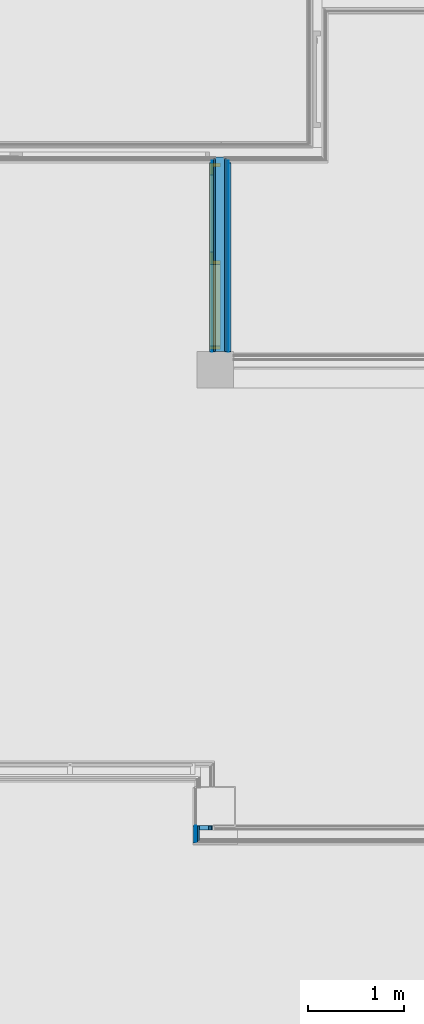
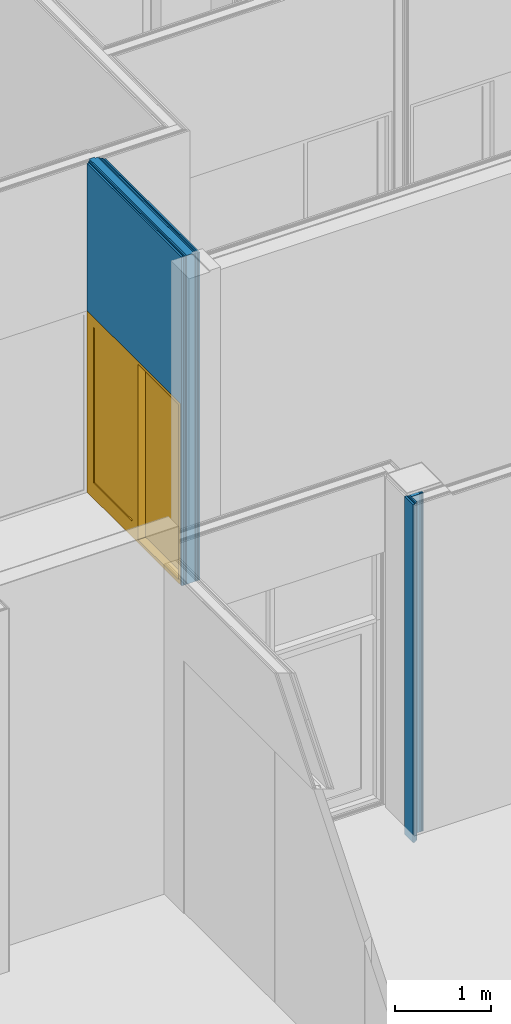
# One storey, part 212 of 260: 17 building element parts, 1 door, 1 opening, 2 elements without a shape of their own.
"""IFC2X3 building model written with IfcOpenShell, lengths in millimetres."""

from ifc_helpers import new_model, entity, si_unit, converted_unit, derived_unit, money_unit, direction, frame, origin_with_axes, place, context, subcontext, project, spatial, open_shell, faceted_brep, surface_model, material, type_object, element, fill, aggregate, save


model = new_model("IFC2X3")

# Units and contexts
model_context = context("Model", 3, precision=0.01, world=origin_with_axes(), true_north=direction((0.0, 1.0)))
body_context = subcontext(model_context, "Body", "Model", "MODEL_VIEW")
ifc_project = project(units=[si_unit("LENGTHUNIT", "METRE", prefix="MILLI"), si_unit("AREAUNIT", "SQUARE_METRE"), si_unit("VOLUMEUNIT", "CUBIC_METRE"), converted_unit("PLANEANGLEUNIT", "DEGREE", entity("IfcPlaneAngleMeasure", 0.0174532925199), si_unit("PLANEANGLEUNIT", "RADIAN"), dimensions=[0, 0, 0, 0, 0, 0, 0]), money_unit("EUR"), converted_unit("TIMEUNIT", "Year", entity("IfcTimeMeasure", 31556926.0), si_unit("TIMEUNIT", "SECOND"), dimensions=[0, 0, 1, 0, 0, 0, 0]), si_unit("MASSUNIT", "GRAM", prefix="KILO"), si_unit("THERMODYNAMICTEMPERATUREUNIT", "DEGREE_CELSIUS"), si_unit("LUMINOUSINTENSITYUNIT", "LUMEN"), si_unit("ENERGYUNIT", "JOULE", prefix="MEGA"), derived_unit("THERMALCONDUCTANCEUNIT", [(si_unit("POWERUNIT", "WATT"), 1), (si_unit("LENGTHUNIT", "METRE"), -1), (si_unit("THERMODYNAMICTEMPERATUREUNIT", "KELVIN"), -1)]), derived_unit("SPECIFICHEATCAPACITYUNIT", [(si_unit("ENERGYUNIT", "JOULE"), 1), (si_unit("MASSUNIT", "GRAM", prefix="KILO"), -1), (si_unit("THERMODYNAMICTEMPERATUREUNIT", "KELVIN"), -1)]), derived_unit("MASSDENSITYUNIT", [(si_unit("MASSUNIT", "GRAM", prefix="KILO"), 1), (si_unit("VOLUMEUNIT", "CUBIC_METRE"), -1)])], contexts=[model_context])

# Site, building, storey
site_placement = place(None, origin_with_axes())
site = spatial("IfcSite", under=ifc_project, at=site_placement, Name="Kolde pst 67a", CompositionType="ELEMENT")
building_placement = place(site_placement, origin_with_axes())
building = spatial("IfcBuilding", under=site, at=building_placement, Name="Riigigümnaasium", CompositionType="ELEMENT")
storey_placement = place(building_placement, origin_with_axes())
storey = spatial("IfcBuildingStorey", under=building, at=storey_placement, Name="1. korrus", CompositionType="ELEMENT", Elevation=0.0)

# Door
door_style = type_object("IfcDoorStyle", Name="Door with Sidelight on Side 2 25", ConstructionType="NOTDEFINED", OperationType="SINGLE_SWING_RIGHT", ParameterTakesPrecedence=False, Sizeable=False)
wall_1_placement = place(storey_placement, frame((76590.0020631, 30929.9996719, 0.0), z_axis=(0.0, 0.0, 1.0), x_axis=(0.0, -1.0, 0.0)))
opening_placement = place(wall_1_placement, frame((970.0, 0.0, 0.0), z_axis=(0.0, 0.0, 1.0), x_axis=(1.0, 0.0, 0.0)))
door_placement = place(opening_placement, frame((970.0, 0.0, 0.0), z_axis=(0.0, 0.0, 1.0), x_axis=(-1.0, 0.0, 0.0)))
door = element("IfcDoor", 1, at=door_placement, inside=storey, type_object=door_style, Name="Siseuks", ObjectType="DOOR", OverallHeight=2300.0, OverallWidth=1940.0, context=body_context, shape_type="SurfaceModel", body=[
    faceted_brep([(0.0, 60.0, 0.0), (40.0, 60.0, 0.0), (40.0, -55.0, 0.0), (0.0, -55.0, 0.0), (0.0, 60.0, 2260.0), (40.0, 60.0, 2260.0), (40.0, 60.0, 40.0), (40.0, -55.0, 40.0), (40.0, -55.0, 2260.0), (0.0, -55.0, 2260.0)], [[[0, 1, 2, 3]], [[0, 4, 5, 6, 1]], [[1, 6, 7, 2]], [[3, 2, 7, 8, 9]], [[4, 0, 3, 9]], [[5, 4, 9, 8]], [[6, 5, 8, 7]]]),
    faceted_brep([(924.0, 20.0, 0.0), (924.0, 20.0, 2260.0), (924.0, -55.0, 2260.0), (924.0, -55.0, 0.0), (912.0, 20.0, 2260.0), (912.0, 20.0, 0.0), (912.0, 60.0, 2260.0), (884.0, 60.0, 2260.0), (884.0, -55.0, 2260.0), (884.0, -55.0, 0.0), (884.0, -55.0, 40.0), (884.0, 60.0, 0.0), (912.0, 60.0, 0.0), (884.0, 60.0, 40.0)], [[[0, 1, 2, 3]], [[4, 1, 0, 5]], [[4, 6, 7, 8, 2, 1]], [[9, 3, 2, 8, 10]], [[5, 0, 3, 9, 11, 12]], [[6, 4, 5, 12]], [[6, 12, 11, 13, 7]], [[13, 10, 8, 7]], [[11, 9, 10, 13]]]),
    faceted_brep([(40.0, 60.0, 40.0), (40.0, 60.0, 0.0), (40.0, -55.0, 0.0), (40.0, -55.0, 40.0), (884.0, 60.0, 40.0), (884.0, 60.0, 0.0), (884.0, -55.0, 0.0), (884.0, -55.0, 40.0)], [[[0, 1, 2, 3]], [[0, 4, 5, 1]], [[1, 5, 6, 2]], [[3, 2, 6, 7]], [[4, 0, 3, 7]], [[5, 4, 7, 6]]]),
    faceted_brep([(1912.0, 20.0, 2260.0), (1900.0, 20.0, 2260.0), (1900.0, -55.0, 2260.0), (1940.0, -55.0, 2260.0), (1940.0, 60.0, 2260.0), (1912.0, 60.0, 2260.0), (1912.0, 20.0, 0.0), (1900.0, 20.0, 0.0), (1900.0, -55.0, 0.0), (1940.0, -55.0, 0.0), (1940.0, 60.0, 0.0), (1912.0, 60.0, 0.0)], [[[0, 1, 2, 3, 4, 5]], [[1, 0, 6, 7]], [[1, 7, 8, 2]], [[3, 2, 8, 9]], [[4, 3, 9, 10]], [[11, 5, 4, 10]], [[0, 5, 11, 6]], [[6, 11, 10, 9, 8, 7]]]),
    faceted_brep([(912.0, 60.0, 2272.0), (912.0, 60.0, 2260.0), (884.0, 60.0, 2260.0), (40.0, 60.0, 2260.0), (0.0, 60.0, 2260.0), (0.0, 60.0, 2300.0), (1940.0, 60.0, 2300.0), (1940.0, 60.0, 2260.0), (1912.0, 60.0, 2260.0), (1912.0, 60.0, 2272.0), (912.0, 20.0, 2272.0), (912.0, 20.0, 2260.0), (1900.0, 20.0, 2260.0), (1900.0, -55.0, 2260.0), (924.0, -55.0, 2260.0), (884.0, -55.0, 2260.0), (40.0, -55.0, 2260.0), (0.0, -55.0, 2260.0), (0.0, -55.0, 2300.0), (1940.0, -55.0, 2300.0), (1940.0, -55.0, 2260.0), (1912.0, 20.0, 2260.0), (1912.0, 20.0, 2272.0)], [[[0, 1, 2, 3, 4, 5, 6, 7, 8, 9]], [[1, 0, 10, 11]], [[11, 12, 13, 14, 15, 2, 1]], [[2, 15, 16, 3]], [[3, 16, 17, 4]], [[4, 17, 18, 5]], [[5, 18, 19, 6]], [[6, 19, 20, 7]], [[21, 8, 7, 20, 13, 12]], [[9, 8, 21, 22]], [[0, 9, 22, 10]], [[21, 12, 11, 10, 22]], [[13, 20, 19, 18, 17, 16, 15, 14]]]),
    faceted_brep([(1912.0, 60.0, 200.0), (1912.0, 20.0, 200.0), (1812.0, 20.0, 200.0), (1812.0, 60.0, 200.0), (1912.0, 60.0, 2172.0), (1912.0, 20.0, 2172.0), (1812.0, 20.0, 2172.0), (1812.0, 60.0, 2172.0)], [[[0, 1, 2, 3]], [[4, 5, 1, 0]], [[1, 5, 6, 2]], [[3, 2, 6, 7]], [[0, 3, 7, 4]], [[7, 6, 5, 4]]]),
    faceted_brep([(912.0, 60.0, 200.0), (912.0, 20.0, 200.0), (912.0, 20.0, 2172.0), (912.0, 60.0, 2172.0), (1012.0, 60.0, 200.0), (1012.0, 20.0, 200.0), (1012.0, 20.0, 2172.0), (1012.0, 60.0, 2172.0)], [[[0, 1, 2, 3]], [[4, 5, 1, 0]], [[1, 5, 6, 2]], [[3, 2, 6, 7]], [[0, 3, 7, 4]], [[7, 6, 5, 4]]]),
    faceted_brep([(1912.0, 60.0, 0.0), (1912.0, 20.0, 0.0), (912.0, 20.0, 0.0), (912.0, 60.0, 0.0), (1912.0, 60.0, 200.0), (1912.0, 20.0, 200.0), (1812.0, 20.0, 200.0), (1012.0, 20.0, 200.0), (912.0, 20.0, 200.0), (912.0, 60.0, 200.0), (1012.0, 60.0, 200.0), (1812.0, 60.0, 200.0)], [[[0, 1, 2, 3]], [[4, 5, 1, 0]], [[1, 5, 6, 7, 8, 2]], [[3, 2, 8, 9]], [[0, 3, 9, 10, 11, 4]], [[11, 6, 5, 4]], [[10, 7, 6, 11]], [[9, 8, 7, 10]]]),
    faceted_brep([(1912.0, 60.0, 2272.0), (1912.0, 20.0, 2272.0), (1912.0, 20.0, 2172.0), (1912.0, 60.0, 2172.0), (912.0, 60.0, 2272.0), (912.0, 20.0, 2272.0), (912.0, 20.0, 2172.0), (1012.0, 20.0, 2172.0), (1812.0, 20.0, 2172.0), (1812.0, 60.0, 2172.0), (1012.0, 60.0, 2172.0), (912.0, 60.0, 2172.0)], [[[0, 1, 2, 3]], [[4, 5, 1, 0]], [[1, 5, 6, 7, 8, 2]], [[3, 2, 8, 9]], [[0, 3, 9, 10, 11, 4]], [[11, 6, 5, 4]], [[10, 7, 6, 11]], [[9, 8, 7, 10]]]),
    surface_model("IfcShellBasedSurfaceModel", [(1812.0, 46.0, 200.0), (1012.0, 46.0, 200.0), (1012.0, 46.0, 2172.0), (1812.0, 46.0, 2172.0)], [open_shell([[[0, 1, 2, 3]]])]),
    surface_model("IfcShellBasedSurfaceModel", [(1812.0, 34.0, 200.0), (1812.0, 34.0, 2172.0), (1012.0, 34.0, 2172.0), (1012.0, 34.0, 200.0)], [open_shell([[[0, 1, 2, 3]]])]),
    surface_model("IfcShellBasedSurfaceModel", [(40.0, -31.0, 40.0), (40.0, -31.0, 2260.0), (884.0, -31.0, 2260.0), (884.0, -31.0, 40.0)], [open_shell([[[0, 1, 2, 3]]])]),
    surface_model("IfcShellBasedSurfaceModel", [(40.0, -43.0, 40.0), (884.0, -43.0, 40.0), (884.0, -43.0, 2260.0), (40.0, -43.0, 2260.0)], [open_shell([[[0, 1, 2, 3]]])]),
])

# Wall, opening
wall_type = type_object("IfcWallType", Name="SS-PK-10/1_vill100+2dold 220", PredefinedType="NOTDEFINED")
wall_1 = element("IfcWall", 2, at=wall_1_placement, inside=storey, type_object=wall_type, Name="Sisesein")
opening = element("IfcOpeningElement", 3, at=opening_placement, cuts=wall_1, Name="Siseuks", context=body_context, shape_type="Brep", body=[
    faceted_brep([(-970.0, 220.0, 2300.0), (-970.0, 220.0, 0.0), (-970.0, -440.0, 0.0), (-970.0, -440.0, 2300.0), (970.0, 220.0, 2300.0), (970.0, 220.0, 0.0), (970.0, -440.0, 0.0), (970.0, -440.0, 2300.0)], [[[0, 1, 2, 3]], [[0, 4, 5, 1]], [[1, 5, 6, 2]], [[3, 2, 6, 7]], [[4, 0, 3, 7]], [[5, 4, 7, 6]]]),
])

fill(opening, door)

# Building element part
ifc_material_1 = material(Name="_VIIMISTLUSKIHT - Dold plaat vastavalt SA osale")
building_element_part_1_placement = place(wall_1_placement, origin_with_axes())
building_element_part_1 = element("IfcBuildingElementPart", 4, at=building_element_part_1_placement, material=ifc_material_1, Name="_VIIMISTLUSKIHT - Dold plaat vastavalt SA osale", context=body_context, shape_type="Brep", body=[
    faceted_brep([(1940.0, 160.0, 0.0), (1940.0, 160.0, 2300.0), (0.0, 160.0, 2300.0), (0.0, 160.0, 4156.9), (1960.000361, 160.0, 4156.9), (1960.000361, 160.0, 0.0), (1940.0, 140.0, 0.0), (1940.0, 140.0, 2300.0), (0.0, 140.0, 2300.0), (0.0, 140.0, 4156.9), (1960.000361, 140.0, 4156.9), (1960.000361, 140.0, 0.0)], [[[0, 1, 2, 3, 4, 5]], [[1, 0, 6, 7]], [[8, 2, 1, 7]], [[2, 8, 9, 3]], [[3, 9, 10, 4]], [[10, 11, 5, 4]], [[6, 0, 5, 11]], [[7, 6, 11, 10, 9, 8]]]),
])

ifc_material_2 = material(Name="_KARKASS - eriprofiilkinnitus vastavalt sisemisele plaatviimistlusele")
building_element_part_2_placement = place(wall_1_placement, origin_with_axes())
building_element_part_2 = element("IfcBuildingElementPart", 5, at=building_element_part_2_placement, material=ifc_material_2, Name="_KARKASS - eriprofiilkinnitus vastavalt sisemisele plaatviimistlusele", context=body_context, shape_type="Brep", body=[
    faceted_brep([(1940.0, 140.0, 0.0), (1940.0, 140.0, 2300.0), (0.0, 140.0, 2300.0), (0.0, 140.0, 0.0), (-20.0, 140.0, 0.0), (-20.0, 140.0, 4156.9), (1960.000361, 140.0, 4156.9), (1960.000361, 140.0, 0.0), (1940.0, 130.0, 0.0), (1940.0, 130.0, 2300.0), (0.0, 130.0, 2300.0), (0.0, 130.0, 0.0), (-20.0, 130.0, 0.0), (-20.0, 130.0, 4156.9), (1960.000361, 130.0, 4156.9), (1960.000361, 130.0, 0.0)], [[[0, 1, 2, 3, 4, 5, 6, 7]], [[1, 0, 8, 9]], [[2, 1, 9, 10]], [[3, 2, 10, 11]], [[3, 11, 12, 4]], [[5, 4, 12, 13]], [[5, 13, 14, 6]], [[14, 15, 7, 6]], [[8, 0, 7, 15]], [[9, 8, 15, 14, 13, 12, 11, 10]]]),
])

ifc_material_3 = material(Name="_PLAATMATERJAL - tuletõkkekipsplaat, Knauf Red GKF või samaväärne")
building_element_part_3_placement = place(wall_1_placement, origin_with_axes())
building_element_part_3 = element("IfcBuildingElementPart", 6, at=building_element_part_3_placement, material=ifc_material_3, Name="_PLAATMATERJAL - tuletõkkekipsplaat, Knauf Red GKF või samaväärne", context=body_context, shape_type="Brep", body=[
    faceted_brep([(1940.0, 130.0, 0.0), (1940.0, 130.0, 2300.0), (0.0, 130.0, 2300.0), (0.0, 130.0, 0.0), (-30.0, 130.0, 0.0), (-30.0, 130.0, 4156.9), (1960.000361, 130.0, 4156.9), (1960.000361, 130.0, 0.0), (1940.0, 115.0, 0.0), (1940.0, 115.0, 2300.0), (0.0, 115.0, 2300.0), (0.0, 115.0, 0.0), (-30.0, 115.0, 0.0), (-30.0, 115.0, 4156.9), (1960.000361, 115.0, 4156.9), (1960.000361, 115.0, 0.0)], [[[0, 1, 2, 3, 4, 5, 6, 7]], [[1, 0, 8, 9]], [[2, 1, 9, 10]], [[3, 2, 10, 11]], [[3, 11, 12, 4]], [[5, 4, 12, 13]], [[5, 13, 14, 6]], [[14, 15, 7, 6]], [[8, 0, 7, 15]], [[9, 8, 15, 14, 13, 12, 11, 10]]]),
])

building_element_part_4_placement = place(wall_1_placement, origin_with_axes())
building_element_part_4 = element("IfcBuildingElementPart", 7, at=building_element_part_4_placement, material=ifc_material_3, Name="_PLAATMATERJAL - tuletõkkekipsplaat, Knauf Red GKF või samaväärne", context=body_context, shape_type="Brep", body=[
    faceted_brep([(1940.0, 115.0, 0.0), (1940.0, 115.0, 2300.0), (0.0, 115.0, 2300.0), (0.0, 115.0, 0.0), (-45.0, 115.0, 0.0), (-45.0, 115.0, 4156.9), (1960.000361, 115.0, 4156.9), (1960.000361, 115.0, 0.0), (1940.0, 100.0, 0.0), (1940.0, 100.0, 2300.0), (0.0, 100.0, 2300.0), (0.0, 100.0, 0.0), (-45.0, 100.0, 0.0), (-45.0, 100.0, 4156.9), (1960.000361, 100.0, 4156.9), (1960.000361, 100.0, 0.0)], [[[0, 1, 2, 3, 4, 5, 6, 7]], [[1, 0, 8, 9]], [[2, 1, 9, 10]], [[3, 2, 10, 11]], [[3, 11, 12, 4]], [[5, 4, 12, 13]], [[5, 13, 14, 6]], [[14, 15, 7, 6]], [[8, 0, 7, 15]], [[9, 8, 15, 14, 13, 12, 11, 10]]]),
])

ifc_material_4 = material(Name="_KARKASS - puitpruss 100x50mm vertikaalne, samm 600mm, vahel mineraalvill, helineeldetegur αw = 1.0, ISOVER ACOUSTIC 100mm või samaväärne")
building_element_part_5_placement = place(wall_1_placement, origin_with_axes())
building_element_part_5 = element("IfcBuildingElementPart", 8, at=building_element_part_5_placement, material=ifc_material_4, Name="_KARKASS - puitpruss 100x50mm vertikaalne, samm 600mm, vahel mineraalvill, helineeldetegur αw = 1.0, ISOVER ACOUSTIC 100mm või samaväärne", context=body_context, shape_type="Brep", body=[
    faceted_brep([(1940.0, 100.0, 0.0), (1940.0, 100.0, 2300.0), (0.0, 100.0, 2300.0), (0.0, 100.0, 0.0), (-60.0, 100.0, 0.0), (-60.0, 100.0, 4156.9), (1960.000361, 100.0, 4156.9), (1960.000361, 100.0, 0.0), (1940.0, 0.0, 0.0), (1940.0, 0.0, 2300.0), (0.0, 0.0, 2300.0), (0.0, 0.0, 0.0), (-60.0, 0.0, 0.0), (-60.0, 0.0, 4170.0), (-60.0, 60.0, 4170.0), (-60.0, 60.0, 4156.9), (1960.000361, 60.0, 4156.9), (1960.000361, 0.0, 0.0), (1960.000361, 60.0, 4170.0), (1960.000361, 0.0, 4170.0)], [[[0, 1, 2, 3, 4, 5, 6, 7]], [[1, 0, 8, 9]], [[2, 1, 9, 10]], [[3, 2, 10, 11]], [[3, 11, 12, 4]], [[4, 12, 13, 14, 15, 5]], [[5, 15, 16, 6]], [[17, 7, 6, 16, 18, 19]], [[8, 0, 7, 17]], [[9, 8, 17, 19, 13, 12, 11, 10]], [[14, 13, 19, 18]], [[14, 18, 16, 15]]]),
])

building_element_part_6_placement = place(wall_1_placement, origin_with_axes())
building_element_part_6 = element("IfcBuildingElementPart", 9, at=building_element_part_6_placement, material=ifc_material_3, Name="_PLAATMATERJAL - tuletõkkekipsplaat, Knauf Red GKF või samaväärne", context=body_context, shape_type="Brep", body=[
    faceted_brep([(1940.0, 0.0, 0.0), (1940.0, 0.0, 2300.0), (0.0, 0.0, 2300.0), (0.0, 0.0, 0.0), (-45.0, 0.0, 0.0), (-45.0, 0.0, 4170.0), (1960.000361, 0.0, 4170.0), (1960.000361, 0.0, 0.0), (1940.0, -15.0, 0.0), (1940.0, -15.0, 2300.0), (0.0, -15.0, 2300.0), (0.0, -15.0, 0.0), (-45.0, -15.0, 0.0), (-45.0, -15.0, 4170.0), (1960.000361, -15.0, 4170.0), (1960.000361, -15.0, 0.0)], [[[0, 1, 2, 3, 4, 5, 6, 7]], [[1, 0, 8, 9]], [[2, 1, 9, 10]], [[3, 2, 10, 11]], [[3, 11, 12, 4]], [[5, 4, 12, 13]], [[5, 13, 14, 6]], [[14, 15, 7, 6]], [[8, 0, 7, 15]], [[9, 8, 15, 14, 13, 12, 11, 10]]]),
])

building_element_part_7_placement = place(wall_1_placement, origin_with_axes())
building_element_part_7 = element("IfcBuildingElementPart", 10, at=building_element_part_7_placement, material=ifc_material_3, Name="_PLAATMATERJAL - tuletõkkekipsplaat, Knauf Red GKF või samaväärne", context=body_context, shape_type="Brep", body=[
    faceted_brep([(1940.0, -15.0, 0.0), (1940.0, -15.0, 2300.0), (0.0, -15.0, 2300.0), (0.0, -15.0, 0.0), (-30.0, -15.0, 0.0), (-30.0, -15.0, 4170.0), (1960.000361, -15.0, 4170.0), (1960.000361, -15.0, 0.0), (1940.0, -30.0, 0.0), (1940.0, -30.0, 2300.0), (0.0, -30.0, 2300.0), (0.0, -30.0, 0.0), (-30.0, -30.0, 0.0), (-30.0, -30.0, 4170.0), (1960.000361, -30.0, 4170.0), (1960.000361, -30.0, 0.0)], [[[0, 1, 2, 3, 4, 5, 6, 7]], [[1, 0, 8, 9]], [[2, 1, 9, 10]], [[3, 2, 10, 11]], [[3, 11, 12, 4]], [[5, 4, 12, 13]], [[5, 13, 14, 6]], [[14, 15, 7, 6]], [[8, 0, 7, 15]], [[9, 8, 15, 14, 13, 12, 11, 10]]]),
])

building_element_part_8_placement = place(wall_1_placement, origin_with_axes())
building_element_part_8 = element("IfcBuildingElementPart", 11, at=building_element_part_8_placement, material=ifc_material_2, Name="_KARKASS - eriprofiilkinnitus vastavalt sisemisele plaatviimistlusele", context=body_context, shape_type="Brep", body=[
    faceted_brep([(1940.0, -30.0, 0.0), (1940.0, -30.0, 2300.0), (0.0, -30.0, 2300.0), (0.0, -30.0, 0.0), (-20.0, -30.0, 0.0), (-20.0, -30.0, 4170.0), (1960.000361, -30.0, 4170.0), (1960.000361, -30.0, 0.0), (1940.0, -40.0, 0.0), (1940.0, -40.0, 2300.0), (0.0, -40.0, 2300.0), (0.0, -40.0, 0.0), (-20.0, -40.0, 0.0), (-20.0, -40.0, 4170.0), (1960.000361, -40.0, 4170.0), (1960.000361, -40.0, 0.0)], [[[0, 1, 2, 3, 4, 5, 6, 7]], [[1, 0, 8, 9]], [[2, 1, 9, 10]], [[3, 2, 10, 11]], [[3, 11, 12, 4]], [[5, 4, 12, 13]], [[5, 13, 14, 6]], [[14, 15, 7, 6]], [[8, 0, 7, 15]], [[9, 8, 15, 14, 13, 12, 11, 10]]]),
])

building_element_part_9_placement = place(wall_1_placement, origin_with_axes())
building_element_part_9 = element("IfcBuildingElementPart", 12, at=building_element_part_9_placement, material=ifc_material_1, Name="_VIIMISTLUSKIHT - Dold plaat vastavalt SA osale", context=body_context, shape_type="Brep", body=[
    faceted_brep([(1940.0, -40.0, 0.0), (1940.0, -40.0, 2300.0), (0.0, -40.0, 2300.0), (0.0, -40.0, 4170.0), (1960.000361, -40.0, 4170.0), (1960.000361, -40.0, 0.0), (1940.0, -60.0, 0.0), (1940.0, -60.0, 2300.0), (0.0, -60.0, 2300.0), (0.0, -60.0, 4170.0), (1960.000361, -60.0, 4170.0), (1960.000361, -60.0, 0.0)], [[[0, 1, 2, 3, 4, 5]], [[1, 0, 6, 7]], [[8, 2, 1, 7]], [[2, 8, 9, 3]], [[3, 9, 10, 4]], [[10, 11, 5, 4]], [[6, 0, 5, 11]], [[7, 6, 11, 10, 9, 8]]]),
])

aggregate(wall_1, [building_element_part_1, building_element_part_2, building_element_part_3, building_element_part_4, building_element_part_5, building_element_part_6, building_element_part_7, building_element_part_8, building_element_part_9])

# Wall, building element parts
wall_2_placement = place(storey_placement, frame((76360.0020631, 24045.0981121, -150.0), z_axis=(0.0, 0.0, 1.0), x_axis=(0.0, -1.0, 0.0)))
wall_2 = element("IfcWall", 13, at=wall_2_placement, inside=storey, type_object=wall_type, Name="Sisesein")
building_element_part_10_placement = place(wall_2_placement, origin_with_axes())
building_element_part_10 = element("IfcBuildingElementPart", 14, at=building_element_part_10_placement, material=ifc_material_2, Name="_KARKASS - eriprofiilkinnitus vastavalt sisemisele plaatviimistlusele", context=body_context, shape_type="Brep", body=[
    faceted_brep([(44.999997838, 200.0, 49.9), (0.0, 200.0, 49.9), (0.0, 200.0, 4335.0), (44.999997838, 200.0, 4335.0), (0.0, 190.0, 49.9), (44.999997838, 190.0, 49.9), (0.0, 190.0, 4335.0), (44.999997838, 190.0, 4335.0)], [[[0, 1, 2, 3]], [[4, 1, 0, 5]], [[1, 4, 6, 2]], [[3, 2, 6, 7]], [[5, 0, 3, 7]], [[4, 5, 7, 6]]]),
])
building_element_part_11_placement = place(wall_2_placement, origin_with_axes())
building_element_part_11 = element("IfcBuildingElementPart", 15, at=building_element_part_11_placement, material=ifc_material_3, Name="_PLAATMATERJAL - tuletõkkekipsplaat, Knauf Red GKF või samaväärne", context=body_context, shape_type="Brep", body=[
    faceted_brep([(44.999997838, 190.0, 49.9), (0.0, 190.0, 49.9), (0.0, 190.0, 4335.0), (44.999997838, 190.0, 4335.0), (0.0, 175.0, 49.9), (44.999997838, 175.0, 49.9), (0.0, 175.0, 4335.0), (44.999997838, 175.0, 4335.0)], [[[0, 1, 2, 3]], [[4, 1, 0, 5]], [[1, 4, 6, 2]], [[3, 2, 6, 7]], [[5, 0, 3, 7]], [[4, 5, 7, 6]]]),
])
building_element_part_12_placement = place(wall_2_placement, origin_with_axes())
building_element_part_12 = element("IfcBuildingElementPart", 16, at=building_element_part_12_placement, material=ifc_material_3, Name="_PLAATMATERJAL - tuletõkkekipsplaat, Knauf Red GKF või samaväärne", context=body_context, shape_type="Brep", body=[
    faceted_brep([(44.999997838, 175.0, 49.9), (0.0, 175.0, 49.9), (0.0, 175.0, 4335.0), (44.999997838, 175.0, 4335.0), (0.0, 160.0, 49.9), (44.999997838, 160.0, 49.9), (0.0, 160.0, 4335.0), (44.999997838, 160.0, 4335.0)], [[[0, 1, 2, 3]], [[4, 1, 0, 5]], [[1, 4, 6, 2]], [[3, 2, 6, 7]], [[5, 0, 3, 7]], [[4, 5, 7, 6]]]),
])
building_element_part_13_placement = place(wall_2_placement, origin_with_axes())
building_element_part_13 = element("IfcBuildingElementPart", 17, at=building_element_part_13_placement, material=ifc_material_4, Name="_KARKASS - puitpruss 100x50mm vertikaalne, samm 600mm, vahel mineraalvill, helineeldetegur αw = 1.0, ISOVER ACOUSTIC 100mm või samaväärne", context=body_context, shape_type="Brep", body=[
    faceted_brep([(44.999997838, 160.0, 49.9), (0.0, 160.0, 49.9), (0.0, 160.0, 4335.0), (44.999997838, 160.0, 4335.0), (0.0, 60.0, 49.9), (44.999997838, 60.0, 49.9), (0.0, 60.0, 4335.0), (44.999997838, 60.0, 4335.0)], [[[0, 1, 2, 3]], [[4, 1, 0, 5]], [[1, 4, 6, 2]], [[3, 2, 6, 7]], [[5, 0, 3, 7]], [[4, 5, 7, 6]]]),
])
building_element_part_14_placement = place(wall_2_placement, origin_with_axes())
building_element_part_14 = element("IfcBuildingElementPart", 18, at=building_element_part_14_placement, material=ifc_material_3, Name="_PLAATMATERJAL - tuletõkkekipsplaat, Knauf Red GKF või samaväärne", context=body_context, shape_type="Brep", body=[
    faceted_brep([(154.999997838, 60.0, 49.9), (0.0, 60.0, 49.9), (0.0, 60.0, 4335.0), (154.999997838, 60.0, 4335.0), (0.0, 45.0, 49.9), (154.999997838, 45.0, 49.9), (0.0, 45.0, 4335.0), (154.999997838, 45.0, 4335.0)], [[[0, 1, 2, 3]], [[4, 1, 0, 5]], [[1, 4, 6, 2]], [[3, 2, 6, 7]], [[5, 0, 3, 7]], [[4, 5, 7, 6]]]),
])
building_element_part_15_placement = place(wall_2_placement, origin_with_axes())
building_element_part_15 = element("IfcBuildingElementPart", 19, at=building_element_part_15_placement, material=ifc_material_3, Name="_PLAATMATERJAL - tuletõkkekipsplaat, Knauf Red GKF või samaväärne", context=body_context, shape_type="Brep", body=[
    faceted_brep([(169.999997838, 45.0, 49.9), (0.0, 45.0, 49.9), (0.0, 45.0, 4335.0), (169.999997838, 45.0, 4335.0), (0.0, 30.0, 49.9), (169.999997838, 30.0, 49.9), (0.0, 30.0, 4335.0), (169.999997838, 30.0, 4335.0)], [[[0, 1, 2, 3]], [[4, 1, 0, 5]], [[1, 4, 6, 2]], [[3, 2, 6, 7]], [[5, 0, 3, 7]], [[4, 5, 7, 6]]]),
])
building_element_part_16_placement = place(wall_2_placement, origin_with_axes())
building_element_part_16 = element("IfcBuildingElementPart", 20, at=building_element_part_16_placement, material=ifc_material_2, Name="_KARKASS - eriprofiilkinnitus vastavalt sisemisele plaatviimistlusele", context=body_context, shape_type="Brep", body=[
    faceted_brep([(169.999997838, 30.0, 49.9), (0.0, 30.0, 49.9), (0.0, 30.0, 4335.0), (169.999997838, 30.0, 4335.0), (0.0, 20.0, 49.9), (169.999997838, 20.0, 49.9), (0.0, 20.0, 4335.0), (169.999997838, 20.0, 4335.0)], [[[0, 1, 2, 3]], [[4, 1, 0, 5]], [[1, 4, 6, 2]], [[3, 2, 6, 7]], [[5, 0, 3, 7]], [[4, 5, 7, 6]]]),
])
building_element_part_17_placement = place(wall_2_placement, origin_with_axes())
building_element_part_17 = element("IfcBuildingElementPart", 21, at=building_element_part_17_placement, material=ifc_material_1, Name="_VIIMISTLUSKIHT - Dold plaat vastavalt SA osale", context=body_context, shape_type="Brep", body=[
    faceted_brep([(179.999997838, 20.0, 49.9), (0.0, 20.0, 49.9), (0.0, 20.0, 4335.0), (179.999997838, 20.0, 4335.0), (0.0, 0.0, 49.9), (179.999997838, 0.0, 49.9), (0.0, 0.0, 4335.0), (179.999997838, 0.0, 4335.0)], [[[0, 1, 2, 3]], [[4, 1, 0, 5]], [[1, 4, 6, 2]], [[3, 2, 6, 7]], [[5, 0, 3, 7]], [[4, 5, 7, 6]]]),
])
aggregate(wall_2, [building_element_part_10, building_element_part_11, building_element_part_12, building_element_part_13, building_element_part_14, building_element_part_15, building_element_part_16, building_element_part_17])

save(model, "model.ifc")
